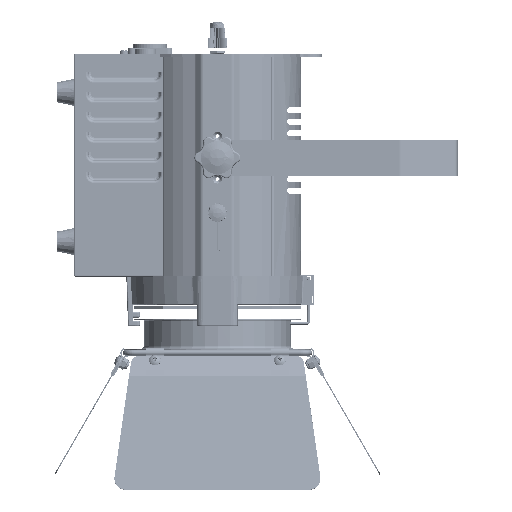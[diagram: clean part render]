
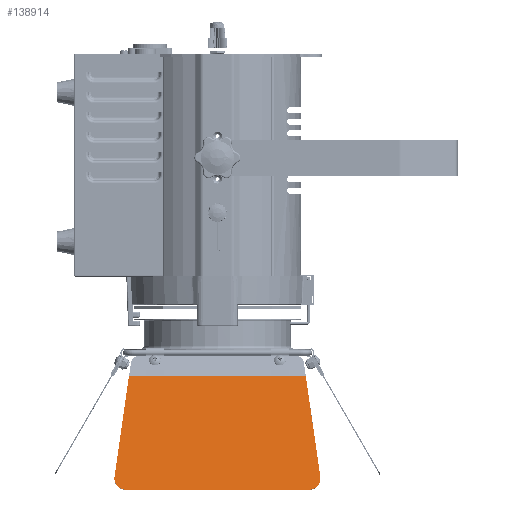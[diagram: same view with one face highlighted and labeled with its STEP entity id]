
A CAD part, left-side view. The second image highlights one B-rep face of the part: STEP entity #138914.
In plain terms, the highlighted planar face has unit normal (-0.978, 0, 0.208) as drawn and (0, 0, -1) by its records, which use the part's own axes.
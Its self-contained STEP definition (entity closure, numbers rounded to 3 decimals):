
#138442=CARTESIAN_POINT('',(-32.5,-63.797,0.));
#138443=DIRECTION('',(0.,0.,1.));
#138444=DIRECTION('',(-1.,0.,0.));
#138445=AXIS2_PLACEMENT_3D('',#138442,#138443,#138444);
#138450=DIRECTION('',(0.99,0.139,0.));
#138451=VECTOR('',#138450,72.385);
#138452=CARTESIAN_POINT('',(-31.387,-71.719,0.));
#138453=LINE('',#138452,#138451);
#138457=DIRECTION('',(-0.99,0.139,0.));
#138458=VECTOR('',#138457,72.385);
#138459=CARTESIAN_POINT('',(40.294,61.645,
0.));
#138460=LINE('',#138459,#138458);
#138464=CARTESIAN_POINT('',(-32.5,63.797,0.));
#138465=DIRECTION('',(0.,0.,1.));
#138466=DIRECTION('',(0.139,0.99,0.));
#138467=AXIS2_PLACEMENT_3D('',#138464,#138465,#138466);
#138472=DIRECTION('',(0.,-1.,0.));
#138473=VECTOR('',#138472,127.594);
#138474=CARTESIAN_POINT('',(-40.5,63.797,0.));
#138475=LINE('',#138474,#138473);
#138538=DIRECTION('',(0.,-1.,0.));
#138539=VECTOR('',#138538,123.29);
#138540=CARTESIAN_POINT('',(40.294,61.645,
0.));
#138541=LINE('',#138540,#138539);
#138834=CARTESIAN_POINT('',(-40.5,-63.797,0.));
#138835=CARTESIAN_POINT('',(-31.387,-71.719,0.));
#138836=VERTEX_POINT('',#138834);
#138837=VERTEX_POINT('',#138835);
#138838=CARTESIAN_POINT('',(40.294,-61.645,
0.));
#138839=VERTEX_POINT('',#138838);
#138840=CARTESIAN_POINT('',(40.294,61.645,
0.));
#138841=VERTEX_POINT('',#138840);
#138842=CARTESIAN_POINT('',(-31.387,71.719,0.));
#138843=VERTEX_POINT('',#138842);
#138844=CARTESIAN_POINT('',(-40.5,63.797,0.));
#138845=VERTEX_POINT('',#138844);
#138895=CARTESIAN_POINT('',(40.5,-73.,0.));
#138896=DIRECTION('',(0.,0.,-1.));
#138897=DIRECTION('',(-1.,0.,0.));
#138898=AXIS2_PLACEMENT_3D('',#138895,#138896,#138897);
#138899=PLANE('',#138898);
#138901=ORIENTED_EDGE('',*,*,#138900,.T.);
#138903=ORIENTED_EDGE('',*,*,#138902,.T.);
#138905=ORIENTED_EDGE('',*,*,#138904,.F.);
#138907=ORIENTED_EDGE('',*,*,#138906,.T.);
#138909=ORIENTED_EDGE('',*,*,#138908,.T.);
#138911=ORIENTED_EDGE('',*,*,#138910,.T.);
#138912=EDGE_LOOP('',(#138901,#138903,#138905,#138907,#138909,#138911));
#138913=FACE_OUTER_BOUND('',#138912,.F.);
#138446=CIRCLE('',#138445,8.);
#138468=CIRCLE('',#138467,8.);
#138900=EDGE_CURVE('',#138836,#138837,#138446,.T.);
#138902=EDGE_CURVE('',#138837,#138839,#138453,.T.);
#138904=EDGE_CURVE('',#138841,#138839,#138541,.T.);
#138906=EDGE_CURVE('',#138841,#138843,#138460,.T.);
#138908=EDGE_CURVE('',#138843,#138845,#138468,.T.);
#138910=EDGE_CURVE('',#138845,#138836,#138475,.T.);
#138914=ADVANCED_FACE('',(#138913),#138899,.T.);
